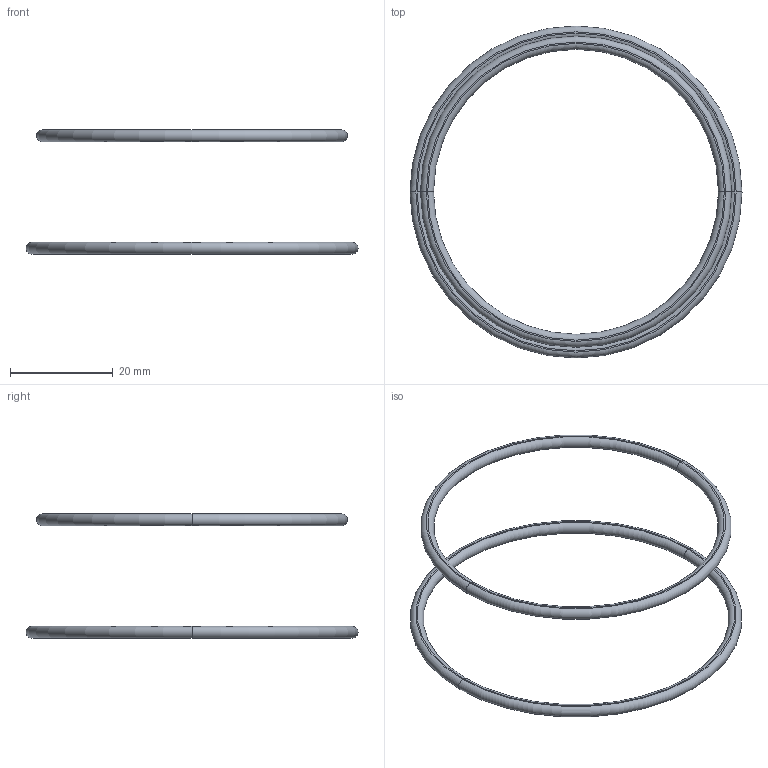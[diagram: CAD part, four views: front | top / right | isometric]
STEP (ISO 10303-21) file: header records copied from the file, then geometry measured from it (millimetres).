
FILE_DESCRIPTION((''),'2;1');
FILE_NAME('RMC-3015','2007-09-27T',('glafferty'),('Pleasant Precision, Inc. (419)675-0556'),'PRO/ENGINEER BY PARAMETRIC TECHNOLOGY CORPORATION, 2006080','PRO/ENGINEER BY PARAMETRIC TECHNOLOGY CORPORATION, 2006080','');
FILE_SCHEMA(('CONFIG_CONTROL_DESIGN'));
Length unit declared in the file: inch
Products named in the file (1): RMC-3015
Bounding box: 64.52 x 64.52 x 24.13 mm (x, y, z)
Volume: 1764.5 mm3; surface area: 2896.2 mm2
Topology: 2 solids, 2 shells, 12 faces, 24 edges, 16 vertices
Faces by surface type: torus 8, plane 4
Entity records: 378 total; most frequent: DIRECTION 72, CARTESIAN_POINT 52, ORIENTED_EDGE 48, AXIS2_PLACEMENT_3D 36, CIRCLE 24, EDGE_CURVE 24, VERTEX_POINT 16, EDGE_LOOP 16
